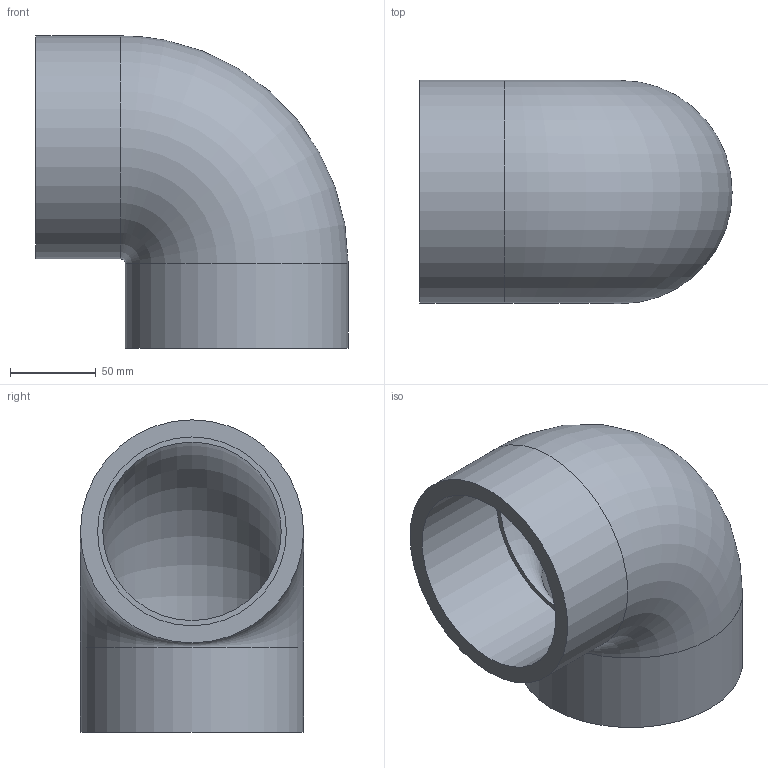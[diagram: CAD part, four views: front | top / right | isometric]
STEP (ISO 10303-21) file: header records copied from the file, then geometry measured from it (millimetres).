
FILE_DESCRIPTION(/* description */ ('PVC Elbow 90° solvent cement metric'),/* implementation_level */ '2;1');
FILE_NAME(/* name */ 'C:\Users\POLYPIPE\Desktop\DATASET INVENTOR\LIBRERIA EFFAST\RACCORDI 3DxWEB\RDR\3D_RDRGOD\3D_RDRGOD1100.stp',/* time_stamp */ '2018-01-19T14:28:17+01:00',/* author */ ('POLYPIPE'),/* organization */ ('Polypipe Italia s.r.l.'),/* preprocessor_version */ 'ST-DEVELOPER v16.1',/* originating_system */ 'Autodesk Inventor 2016',/* authorisation */ '');
FILE_SCHEMA (('CONFIG_CONTROL_DESIGN'));
Length unit declared in the file: millimetre
Products named in the file (1): 3D_RDRGOD
Bounding box: 182 x 130 x 182 mm (x, y, z)
Volume: 814741.3 mm3; surface area: 164192.4 mm2
Topology: 1 solids, 1 shells, 10 faces, 16 edges, 10 vertices
Faces by surface type: cylinder 4, plane 4, torus 2
Full cylindrical faces by diameter (mm): 110 x2, 130 x2
Entity records: 232 total; most frequent: DIRECTION 42, CARTESIAN_POINT 31, AXIS2_PLACEMENT_3D 21, EDGE_LOOP 20, ORIENTED_EDGE 20, FACE_BOUND 10, FACE_OUTER_BOUND 10, CIRCLE 10
